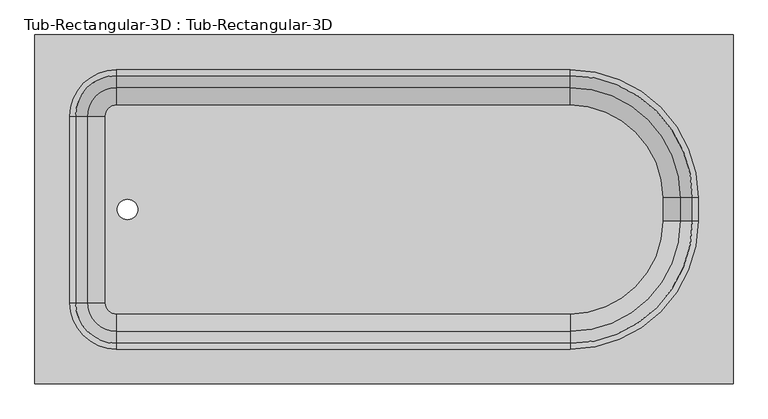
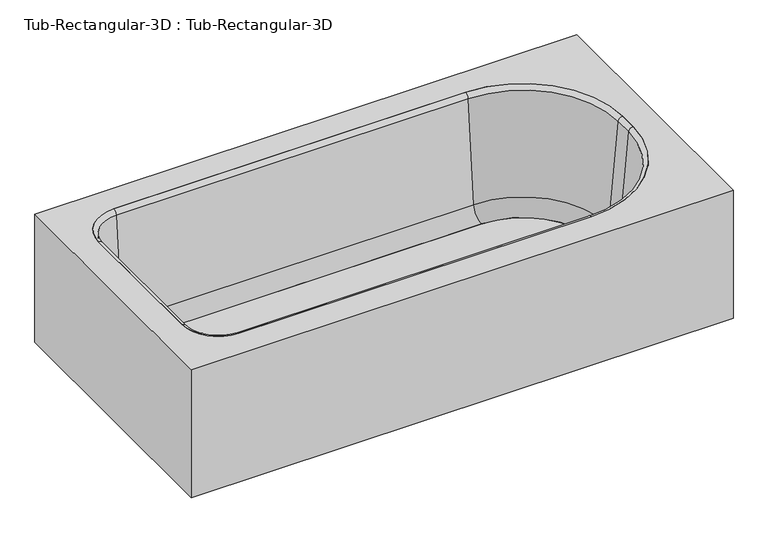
"""IFC4 building model written with IfcOpenShell, lengths in millimetres: flow terminal geometry, Tub-Rectangular-3D : Tub-Rectangular-3D."""

from ifc_helpers import new_model, si_unit, point, frame, frame_2d, origin, place, context, project, spatial, polyline, circle_curve, ellipse_curve, trimmed, segment, composite_curve, outline, extrude, source, transform, mapped, element, save
from ifc_brep_helpers import plane_surface, cylinder_surface, revolved_surface, advanced_brep


def tub_rectangular_3d_tub_rectangular_3d_49ae984a(model_context):
    return source(origin(), model_context, "Body", "SolidModel", [
        advanced_brep(
        [(-995.7544608, 676.275, 70.6929392), (-932.8029687, 739.2264921, 70.6929392), (-932.8029687, 765.3970035, 369.8232535), (-1021.9249722, 676.275, 369.8232535), (-957.7994428, 676.275, 35.913573), (-932.8029687, 701.2714741, 35.913573), (-957.7994428, 676.275, 16.863573), (-932.8029687, 701.2714741, 16.863573), (-1034.4029687, 676.275, 16.863573), (-932.8029687, 777.875, 16.863573), (-1034.4029687, 676.275, 381.0), (-932.8029687, 777.875, 381.0), (-1021.9249722, 269.875, 369.8232535), (-995.7544608, 269.875, 70.6929392), (-957.7994428, 269.875, 35.913573), (-957.7994428, 269.875, 16.863573), (-1034.4029687, 269.875, 16.863573), (-1034.4029687, 269.875, 381.0), (-932.8029687, 206.9235079, 70.6929392), (-932.8029687, 180.7529965, 369.8232535), (-932.8029687, 244.8785259, 35.913573), (-932.8029687, 244.8785259, 16.863573), (-932.8029687, 168.275, 16.863573), (-932.8029687, 168.275, 381.0), (57.7970313, 180.7529965, 369.8232535), (57.7970313, 206.9235079, 70.6929392), (57.7970313, 244.8785259, 35.913573), (57.7970313, 244.8785259, 16.863573), (57.7970313, 168.275, 16.863573), (57.7970313, 168.275, 381.0), (298.5485234, 447.675, 70.6929392), (324.7190348, 447.675, 369.8232535), (260.5935054, 447.675, 35.913573), (260.5935054, 447.675, 16.863573), (337.1970313, 447.675, 16.863573), (337.1970313, 447.675, 381.0), (324.7190348, 498.475, 369.8232535), (298.5485234, 498.475, 70.6929392), (260.5935054, 498.475, 35.913573), (260.5935054, 498.475, 16.863573), (337.1970313, 498.475, 16.863573), (337.1970313, 498.475, 381.0), (57.7970313, 739.2264921, 70.6929392), (57.7970313, 765.3970035, 369.8232535), (57.7970313, 701.2714741, 35.913573), (57.7970313, 701.2714741, 16.863573), (57.7970313, 777.875, 16.863573), (57.7970313, 777.875, 381.0)],
        [
            (0, 1, circle_curve(frame((-932.8029687, 676.275, 70.6929392), z_axis=(0.0, 0.0, -1.0), x_axis=(0.0, 1.0, 0.0)), 62.9514921)),
            (1, 2),
            (2, 3, circle_curve(frame((-932.8029687, 676.275, 369.8232535), z_axis=(0.0, 0.0, 1.0), x_axis=(0.0, 1.0, 0.0)), 89.1220035)),
            (3, 0),
            (4, 5, circle_curve(frame((-932.8029687, 676.275, 35.913573), z_axis=(0.0, 0.0, -1.0), x_axis=(0.0, 1.0, 0.0)), 24.9964741)),
            (5, 1, circle_curve(frame((-932.8029687, 701.2714741, 74.013573), z_axis=(1.0, 0.0, 0.0), x_axis=(0.0, -1.0, 0.0)), 38.1)),
            (0, 4, circle_curve(frame((-957.7994428, 676.275, 74.013573), z_axis=(0.0, -1.0, 0.0), x_axis=(1.0, 0.0, 0.0)), 38.1)),
            (6, 7, circle_curve(frame((-932.8029687, 676.275, 16.863573), z_axis=(0.0, 0.0, -1.0), x_axis=(0.0, 1.0, 0.0)), 24.9964741)),
            (7, 5),
            (4, 6),
            (8, 9, circle_curve(frame((-932.8029687, 676.275, 16.863573), z_axis=(0.0, 0.0, -1.0), x_axis=(0.0, 1.0, 0.0)), 101.6)),
            (9, 7),
            (6, 8),
            (10, 11, circle_curve(frame((-932.8029687, 676.275, 381.0), z_axis=(0.0, 0.0, -1.0), x_axis=(0.0, 1.0, 0.0)), 101.6)),
            (11, 9),
            (8, 10),
            (2, 11, circle_curve(frame((-932.8029687, 777.875, 368.4462547), z_axis=(-1.0, 0.0, 0.0), x_axis=(0.0, -1.0, 0.0)), 12.5537453)),
            (10, 3, circle_curve(frame((-1034.4029687, 676.275, 368.4462547), z_axis=(0.0, 1.0, 0.0), x_axis=(1.0, 0.0, 0.0)), 12.5537453)),
            (3, 12),
            (12, 13),
            (13, 0),
            (13, 14, circle_curve(frame((-957.7994428, 269.875, 74.013573), z_axis=(0.0, -1.0, 0.0), x_axis=(1.0, 0.0, 0.0)), 38.1)),
            (14, 4),
            (14, 15),
            (15, 6),
            (15, 16),
            (16, 8),
            (16, 17),
            (17, 10),
            (17, 12, circle_curve(frame((-1034.4029687, 269.875, 368.4462547), z_axis=(0.0, 1.0, 0.0), x_axis=(1.0, 0.0, 0.0)), 12.5537453)),
            (18, 13, circle_curve(frame((-932.8029687, 269.875, 70.6929392), z_axis=(0.0, 0.0, -1.0), x_axis=(-1.0, 0.0, 0.0)), 62.9514921)),
            (12, 19, circle_curve(frame((-932.8029687, 269.875, 369.8232535), z_axis=(0.0, 0.0, 1.0), x_axis=(-1.0, 0.0, 0.0)), 89.1220035)),
            (19, 18),
            (20, 14, circle_curve(frame((-932.8029687, 269.875, 35.913573), z_axis=(0.0, 0.0, -1.0), x_axis=(-1.0, 0.0, 0.0)), 24.9964741)),
            (18, 20, circle_curve(frame((-932.8029687, 244.8785259, 74.013573), z_axis=(1.0, 0.0, 0.0), x_axis=(0.0, 1.0, 0.0)), 38.1)),
            (21, 15, circle_curve(frame((-932.8029687, 269.875, 16.863573), z_axis=(0.0, 0.0, -1.0), x_axis=(-1.0, 0.0, 0.0)), 24.9964741)),
            (20, 21),
            (22, 16, circle_curve(frame((-932.8029687, 269.875, 16.863573), z_axis=(0.0, 0.0, -1.0), x_axis=(-1.0, 0.0, 0.0)), 101.6)),
            (21, 22),
            (23, 17, circle_curve(frame((-932.8029687, 269.875, 381.0), z_axis=(0.0, 0.0, -1.0), x_axis=(-1.0, 0.0, 0.0)), 101.6)),
            (22, 23),
            (23, 19, circle_curve(frame((-932.8029687, 168.275, 368.4462547), z_axis=(-1.0, 0.0, 0.0), x_axis=(0.0, 1.0, 0.0)), 12.5537453)),
            (19, 24),
            (24, 25),
            (25, 18),
            (25, 26, circle_curve(frame((57.7970313, 244.8785259, 74.013573), z_axis=(1.0, 0.0, 0.0), x_axis=(0.0, 1.0, 0.0)), 38.1)),
            (26, 20),
            (26, 27),
            (27, 21),
            (27, 28),
            (28, 22),
            (28, 29),
            (29, 23),
            (29, 24, circle_curve(frame((57.7970313, 168.275, 368.4462547), z_axis=(-1.0, 0.0, 0.0), x_axis=(0.0, 1.0, 0.0)), 12.5537453)),
            (30, 25, circle_curve(frame((57.7970313, 447.675, 70.6929392), z_axis=(0.0, 0.0, -1.0), x_axis=(0.0, -1.0, 0.0)), 240.7514921)),
            (24, 31, circle_curve(frame((57.7970313, 447.675, 369.8232535), z_axis=(0.0, 0.0, 1.0), x_axis=(0.0, -1.0, 0.0)), 266.9220035)),
            (31, 30),
            (32, 26, circle_curve(frame((57.7970313, 447.675, 35.913573), z_axis=(0.0, 0.0, -1.0), x_axis=(0.0, -1.0, 0.0)), 202.7964741)),
            (30, 32, circle_curve(frame((260.5935054, 447.675, 74.013573), z_axis=(0.0, 1.0, 0.0), x_axis=(-1.0, 0.0, 0.0)), 38.1)),
            (33, 27, circle_curve(frame((57.7970313, 447.675, 16.863573), z_axis=(0.0, 0.0, -1.0), x_axis=(0.0, -1.0, 0.0)), 202.7964741)),
            (32, 33),
            (34, 28, circle_curve(frame((57.7970313, 447.675, 16.863573), z_axis=(0.0, 0.0, -1.0), x_axis=(0.0, -1.0, 0.0)), 279.4)),
            (33, 34),
            (35, 29, circle_curve(frame((57.7970313, 447.675, 381.0), z_axis=(0.0, 0.0, -1.0), x_axis=(0.0, -1.0, 0.0)), 279.4)),
            (34, 35),
            (35, 31, circle_curve(frame((337.1970313, 447.675, 368.4462547), z_axis=(0.0, -1.0, 0.0), x_axis=(-1.0, 0.0, 0.0)), 12.5537453)),
            (31, 36),
            (36, 37),
            (37, 30),
            (37, 38, circle_curve(frame((260.5935054, 498.475, 74.013573), z_axis=(0.0, 1.0, 0.0), x_axis=(-1.0, 0.0, 0.0)), 38.1)),
            (38, 32),
            (38, 39),
            (39, 33),
            (39, 40),
            (40, 34),
            (40, 41),
            (41, 35),
            (41, 36, circle_curve(frame((337.1970313, 498.475, 368.4462547), z_axis=(0.0, -1.0, 0.0), x_axis=(-1.0, 0.0, 0.0)), 12.5537453)),
            (42, 37, circle_curve(frame((57.7970313, 498.475, 70.6929392), z_axis=(0.0, 0.0, -1.0), x_axis=(1.0, 0.0, 0.0)), 240.7514921)),
            (36, 43, circle_curve(frame((57.7970313, 498.475, 369.8232535), z_axis=(0.0, 0.0, 1.0), x_axis=(1.0, 0.0, 0.0)), 266.9220035)),
            (43, 42),
            (44, 38, circle_curve(frame((57.7970313, 498.475, 35.913573), z_axis=(0.0, 0.0, -1.0), x_axis=(1.0, 0.0, 0.0)), 202.7964741)),
            (42, 44, circle_curve(frame((57.7970313, 701.2714741, 74.013573), z_axis=(-1.0, 0.0, 0.0), x_axis=(0.0, -1.0, 0.0)), 38.1)),
            (45, 39, circle_curve(frame((57.7970313, 498.475, 16.863573), z_axis=(0.0, 0.0, -1.0), x_axis=(1.0, 0.0, 0.0)), 202.7964741)),
            (44, 45),
            (46, 40, circle_curve(frame((57.7970313, 498.475, 16.863573), z_axis=(0.0, 0.0, -1.0), x_axis=(1.0, 0.0, 0.0)), 279.4)),
            (45, 46),
            (47, 41, circle_curve(frame((57.7970313, 498.475, 381.0), z_axis=(0.0, 0.0, -1.0), x_axis=(1.0, 0.0, 0.0)), 279.4)),
            (46, 47),
            (47, 43, circle_curve(frame((57.7970313, 777.875, 368.4462547), z_axis=(1.0, 0.0, 0.0), x_axis=(0.0, -1.0, 0.0)), 12.5537453)),
            (43, 2),
            (1, 42),
            (5, 44),
            (7, 45),
            (9, 46),
            (11, 47),
        ],
        [
            revolved_surface(polyline([(-932.8029687, 765.3970035, 369.8232535), (-932.8029687, 739.2264921, 70.6929392)]), (-932.8029687, 676.275, 381.0), (0.0, 0.0, 1.0)),
            revolved_surface(trimmed(ellipse_curve(frame((-932.8029687, 701.2714741, 74.013573), z_axis=(-1.0, 0.0, 0.0), x_axis=(0.0, -1.0, 0.0)), 38.1, 38.1), [point((-932.8029687, 739.2264921, 70.6929392))], [point((-932.8029687, 701.2714741, 35.913573))], True, "CARTESIAN"), (-932.8029687, 676.275, 381.0), (0.0, 0.0, 1.0)),
            revolved_surface(polyline([(-932.8029687, 701.2714741, 35.913572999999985), (-932.8029687, 701.2714741, 16.863572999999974)]), (-932.8029687, 676.275, 381.0), (0.0, 0.0, 1.0)),
            plane_surface(frame((-932.8029687, 676.275, 16.863573), z_axis=(0.0, 0.0, -1.0), x_axis=(0.0, 1.0, 0.0))),
            cylinder_surface(frame((-932.8029687, 676.275, 381.0), z_axis=(0.0, 0.0, 1.0), x_axis=(0.0, 1.0, 0.0)), 101.6),
            revolved_surface(trimmed(ellipse_curve(frame((-932.8029687, 777.875, 368.4462547), z_axis=(1.0, 0.0, 0.0), x_axis=(0.0, -1.0, 0.0)), 12.5537453, 12.5537453), [point((-932.8029687, 777.875, 381.0))], [point((-932.8029687, 765.3970035, 369.8232535))], True, "CARTESIAN"), (-932.8029687, 676.275, 381.0), (0.0, 0.0, 1.0)),
            plane_surface(frame((-1021.9249722, 676.275, 369.8232535), z_axis=(0.9961946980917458, 0.0, 0.08715574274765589), x_axis=(0.0, -1.0, 0.0))),
            revolved_surface(polyline([(-919.6994427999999, 269.875, 74.013573), (-919.6994427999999, 676.275, 74.013573)]), (-957.7994428, 676.275, 74.013573), (0.0, -1.0, 0.0)),
            plane_surface(frame((-957.7994428, 676.275, 35.913573), z_axis=(1.0, 0.0, 0.0), x_axis=(0.0, -1.0, 0.0))),
            plane_surface(frame((-957.7994428, 676.275, 16.863573), z_axis=(0.0, 0.0, -1.0), x_axis=(0.0, -1.0, 0.0))),
            plane_surface(frame((-1034.4029687, 676.275, 16.863573), z_axis=(-1.0, 0.0, 0.0), x_axis=(0.0, -1.0, 0.0))),
            cylinder_surface(frame((-1034.4029687, 676.275, 368.4462547), z_axis=(0.0, 1.0, 0.0), x_axis=(1.0, 0.0, 0.0)), 12.5537453),
            revolved_surface(polyline([(-1021.9249722, 269.875, 369.8232535), (-995.7544608, 269.875, 70.6929392)]), (-932.8029687, 269.875, 381.0), (0.0, 0.0, 1.0)),
            revolved_surface(trimmed(ellipse_curve(frame((-957.7994428, 269.875, 74.013573), z_axis=(0.0, -1.0, 0.0), x_axis=(1.0, 0.0, 0.0)), 38.1, 38.1), [point((-995.7544608, 269.875, 70.6929392))], [point((-957.7994428, 269.875, 35.913573))], True, "CARTESIAN"), (-932.8029687, 269.875, 381.0), (0.0, 0.0, 1.0)),
            revolved_surface(polyline([(-957.7994428, 269.875, 35.913572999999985), (-957.7994428, 269.875, 16.863572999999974)]), (-932.8029687, 269.875, 381.0), (0.0, 0.0, 1.0)),
            plane_surface(frame((-932.8029687, 269.875, 16.863573), z_axis=(0.0, 0.0, -1.0), x_axis=(-1.0, 0.0, 0.0))),
            cylinder_surface(frame((-932.8029687, 269.875, 381.0), z_axis=(0.0, 0.0, 1.0), x_axis=(-1.0, 0.0, 0.0)), 101.6),
            revolved_surface(trimmed(ellipse_curve(frame((-1034.4029687, 269.875, 368.4462547), z_axis=(0.0, 1.0, 0.0), x_axis=(1.0, 0.0, 0.0)), 12.5537453, 12.5537453), [point((-1034.4029687, 269.875, 381.0))], [point((-1021.9249722, 269.875, 369.8232535))], True, "CARTESIAN"), (-932.8029687, 269.875, 381.0), (0.0, 0.0, 1.0)),
            plane_surface(frame((-932.8029687, 180.7529965, 369.8232535), z_axis=(0.0, 0.9961946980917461, 0.08715574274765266), x_axis=(1.0, 0.0, 0.0))),
            revolved_surface(polyline([(57.79703129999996, 282.9785259, 74.013573), (-932.8029687, 282.9785259, 74.013573)]), (-932.8029687, 244.8785259, 74.013573), (1.0, 0.0, 0.0)),
            plane_surface(frame((-932.8029687, 244.8785259, 35.913573), z_axis=(0.0, 1.0, 0.0), x_axis=(1.0, 0.0, 0.0))),
            plane_surface(frame((-932.8029687, 244.8785259, 16.863573), z_axis=(0.0, 0.0, -1.0), x_axis=(1.0, 0.0, 0.0))),
            plane_surface(frame((-932.8029687, 168.275, 16.863573), z_axis=(0.0, -1.0, 0.0), x_axis=(1.0, 0.0, 0.0))),
            cylinder_surface(frame((-932.8029687, 168.275, 368.4462547), z_axis=(-1.0, 0.0, 0.0), x_axis=(0.0, 1.0, 0.0)), 12.5537453),
            revolved_surface(polyline([(57.7970313, 180.7529965, 369.8232535), (57.7970313, 206.9235079, 70.6929392)]), (57.7970313, 447.675, 381.0), (0.0, 0.0, 1.0)),
            revolved_surface(trimmed(ellipse_curve(frame((57.7970313, 244.8785259, 74.013573), z_axis=(1.0, 0.0, 0.0), x_axis=(0.0, 1.0, 0.0)), 38.1, 38.1), [point((57.7970313, 206.9235079, 70.6929392))], [point((57.7970313, 244.8785259, 35.913573))], True, "CARTESIAN"), (57.7970313, 447.675, 381.0), (0.0, 0.0, 1.0)),
            revolved_surface(polyline([(57.7970313, 244.8785259, 35.913572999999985), (57.7970313, 244.8785259, 16.863572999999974)]), (57.7970313, 447.675, 381.0), (0.0, 0.0, 1.0)),
            plane_surface(frame((57.7970313, 447.675, 16.863573), z_axis=(0.0, 0.0, -1.0), x_axis=(0.0, -1.0, 0.0))),
            cylinder_surface(frame((57.7970313, 447.675, 381.0), z_axis=(0.0, 0.0, 1.0), x_axis=(0.0, -1.0, 0.0)), 279.4),
            revolved_surface(trimmed(ellipse_curve(frame((57.7970313, 168.275, 368.4462547), z_axis=(-1.0, 0.0, 0.0), x_axis=(0.0, 1.0, 0.0)), 12.5537453, 12.5537453), [point((57.7970313, 168.275, 381.0))], [point((57.7970313, 180.7529965, 369.8232535))], True, "CARTESIAN"), (57.7970313, 447.675, 381.0), (0.0, 0.0, 1.0)),
            plane_surface(frame((324.7190348, 447.675, 369.8232535), z_axis=(-0.9961946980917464, 0.0, 0.08715574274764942), x_axis=(0.0, 1.0, 0.0))),
            revolved_surface(polyline([(222.49350540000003, 498.475, 74.013573), (222.49350540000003, 447.675, 74.013573)]), (260.5935054, 447.675, 74.013573), (0.0, 1.0, 0.0)),
            plane_surface(frame((260.5935054, 447.675, 35.913573), z_axis=(-1.0, 0.0, 0.0), x_axis=(0.0, 1.0, 0.0))),
            plane_surface(frame((260.5935054, 447.675, 16.863573), z_axis=(0.0, 0.0, -1.0), x_axis=(0.0, 1.0, 0.0))),
            plane_surface(frame((337.1970313, 447.675, 16.863573), z_axis=(1.0, 0.0, 0.0), x_axis=(0.0, 1.0, 0.0))),
            cylinder_surface(frame((337.1970313, 447.675, 368.4462547), z_axis=(0.0, -1.0, 0.0), x_axis=(-1.0, 0.0, 0.0)), 12.5537453),
            revolved_surface(polyline([(324.7190348, 498.475, 369.8232535), (298.5485234, 498.475, 70.6929392)]), (57.7970313, 498.475, 381.0), (0.0, 0.0, 1.0)),
            revolved_surface(trimmed(ellipse_curve(frame((260.5935054, 498.475, 74.013573), z_axis=(0.0, 1.0, 0.0), x_axis=(-1.0, 0.0, 0.0)), 38.1, 38.1), [point((298.5485234, 498.475, 70.6929392))], [point((260.5935054, 498.475, 35.913573))], True, "CARTESIAN"), (57.7970313, 498.475, 381.0), (0.0, 0.0, 1.0)),
            revolved_surface(polyline([(260.5935054, 498.475, 35.913572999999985), (260.5935054, 498.475, 16.863572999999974)]), (57.7970313, 498.475, 381.0), (0.0, 0.0, 1.0)),
            plane_surface(frame((57.7970313, 498.475, 16.863573), z_axis=(0.0, 0.0, -1.0), x_axis=(1.0, 0.0, 0.0))),
            cylinder_surface(frame((57.7970313, 498.475, 381.0), z_axis=(0.0, 0.0, 1.0), x_axis=(1.0, 0.0, 0.0)), 279.4),
            revolved_surface(trimmed(ellipse_curve(frame((337.1970313, 498.475, 368.4462547), z_axis=(0.0, -1.0, 0.0), x_axis=(-1.0, 0.0, 0.0)), 12.5537453, 12.5537453), [point((337.1970313, 498.475, 381.0))], [point((324.7190348, 498.475, 369.8232535))], True, "CARTESIAN"), (57.7970313, 498.475, 381.0), (0.0, 0.0, 1.0)),
            plane_surface(frame((57.7970313, 765.3970035, 369.8232535), z_axis=(0.0, -0.9961946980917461, 0.08715574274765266), x_axis=(-1.0, 0.0, 0.0))),
            revolved_surface(polyline([(-932.8029687, 663.1714741, 74.013573), (57.7970313, 663.1714741, 74.013573)]), (57.7970313, 701.2714741, 74.013573), (-1.0, 0.0, 0.0)),
            plane_surface(frame((57.7970313, 701.2714741, 35.913573), z_axis=(0.0, -1.0, 0.0), x_axis=(-1.0, 0.0, 0.0))),
            plane_surface(frame((57.7970313, 701.2714741, 16.863573), z_axis=(0.0, 0.0, -1.0), x_axis=(-1.0, 0.0, 0.0))),
            plane_surface(frame((57.7970313, 777.875, 16.863573), z_axis=(0.0, 1.0, 0.0), x_axis=(-1.0, 0.0, 0.0))),
            cylinder_surface(frame((57.7970313, 777.875, 368.4462547), z_axis=(1.0, 0.0, 0.0), x_axis=(0.0, -1.0, 0.0)), 12.5537453),
        ],
        [
            (0, [[1, 2, 3, 4]]),
            (1, [[5, 6, -1, 7]]),
            (2, [[8, 9, -5, 10]]),
            (3, [[11, 12, -8, 13]]),
            (4, [[14, 15, -11, 16]]),
            (5, [[-3, 17, -14, 18]]),
            (6, [[-4, 19, 20, 21]]),
            (7, [[-7, -21, 22, 23]]),
            (8, [[-10, -23, 24, 25]]),
            (9, [[-13, -25, 26, 27]]),
            (10, [[-16, -27, 28, 29]]),
            (11, [[-18, -29, 30, -19]]),
            (12, [[31, -20, 32, 33]]),
            (13, [[34, -22, -31, 35]]),
            (14, [[36, -24, -34, 37]]),
            (15, [[38, -26, -36, 39]]),
            (16, [[40, -28, -38, 41]]),
            (17, [[-32, -30, -40, 42]]),
            (18, [[-33, 43, 44, 45]]),
            (19, [[-35, -45, 46, 47]]),
            (20, [[-37, -47, 48, 49]]),
            (21, [[-39, -49, 50, 51]]),
            (22, [[-41, -51, 52, 53]]),
            (23, [[-42, -53, 54, -43]]),
            (24, [[55, -44, 56, 57]]),
            (25, [[58, -46, -55, 59]]),
            (26, [[60, -48, -58, 61]]),
            (27, [[62, -50, -60, 63]]),
            (28, [[64, -52, -62, 65]]),
            (29, [[-56, -54, -64, 66]]),
            (30, [[-57, 67, 68, 69]]),
            (31, [[-59, -69, 70, 71]]),
            (32, [[-61, -71, 72, 73]]),
            (33, [[-63, -73, 74, 75]]),
            (34, [[-65, -75, 76, 77]]),
            (35, [[-66, -77, 78, -67]]),
            (36, [[79, -68, 80, 81]]),
            (37, [[82, -70, -79, 83]]),
            (38, [[84, -72, -82, 85]]),
            (39, [[86, -74, -84, 87]]),
            (40, [[88, -76, -86, 89]]),
            (41, [[-80, -78, -88, 90]]),
            (42, [[-81, 91, -2, 92]]),
            (43, [[-83, -92, -6, 93]]),
            (44, [[-85, -93, -9, 94]]),
            (45, [[-87, -94, -12, 95]]),
            (46, [[-89, -95, -15, 96]]),
            (47, [[-90, -96, -17, -91]]),
        ],
    ),
        extrude(outline(composite_curve([segment(trimmed(circle_curve(frame_2d((57.7970313, 498.475)), 202.7964741), [point((57.7970313, 701.2714741))], [point((260.5935054, 498.475))], False, "CARTESIAN"), True, "CONTINUOUS"), segment(polyline([(260.5935054, 498.475), (260.5935054, 447.675)]), True, "CONTINUOUS"), segment(trimmed(circle_curve(frame_2d((57.7970313, 447.675)), 202.7964741), [point((260.5935054, 447.675))], [point((57.7970313, 244.8785259))], False, "CARTESIAN"), True, "CONTINUOUS"), segment(polyline([(57.7970313, 244.8785259), (-932.8029687, 244.8785259)]), True, "CONTINUOUS"), segment(trimmed(circle_curve(frame_2d((-932.8029687, 269.875)), 24.9964741), [point((-932.8029687, 244.8785259))], [point((-957.7994428, 269.875))], False, "CARTESIAN"), True, "CONTINUOUS"), segment(polyline([(-957.7994428, 269.875), (-957.7994428, 676.275)]), True, "CONTINUOUS"), segment(trimmed(circle_curve(frame_2d((-932.8029687, 676.275)), 24.9964741), [point((-957.7994428, 676.275))], [point((-932.8029687, 701.2714741))], False, "CARTESIAN"), True, "CONTINUOUS"), segment(polyline([(-932.8029687, 701.2714741), (57.7970313, 701.2714741)]), True, "CONTINUOUS")], self_intersect=False), holes=[composite_curve([segment(trimmed(circle_curve(frame_2d((-908.510206, 473.075)), 22.225), [point((-908.510206, 495.3))], [point((-908.510206, 450.85))], True, "CARTESIAN"), True, "CONTINUOUS"), segment(trimmed(circle_curve(frame_2d((-908.510206, 473.075)), 22.225), [point((-908.510206, 450.85))], [point((-908.510206, 495.3))], True, "CARTESIAN"), True, "CONTINUOUS")], self_intersect=False)]), frame((0.0, 0.0, 16.863573), z_axis=(0.0, 0.0, 1.0), x_axis=(1.0, 0.0, 0.0)), (0.0, 0.0, 1.0), 19.05),
        advanced_brep(
        [(413.3970313, 854.075, 381.0), (-1110.6029687, 854.075, 381.0), (-1110.6029687, 92.075, 381.0), (413.3970313, 92.075, 381.0), (-932.8029687, 777.875, 381.0), (57.7970313, 777.875, 381.0), (337.1970313, 498.475, 381.0), (337.1970313, 447.675, 381.0), (57.7970313, 168.275, 381.0), (-932.8029687, 168.275, 381.0), (-1034.4029687, 269.875, 381.0), (-1034.4029687, 676.275, 381.0), (394.3470313, 835.025, 361.95), (394.3470313, 111.125, 361.95), (-1091.5529687, 111.125, 361.95), (-1091.5529687, 835.025, 361.95), (-932.8029687, 777.875, 361.95), (-1034.4029687, 676.275, 361.95), (-1034.4029687, 269.875, 361.95), (-932.8029687, 168.275, 361.95), (57.7970313, 168.275, 361.95), (337.1970313, 447.675, 361.95), (337.1970313, 498.475, 361.95), (57.7970313, 777.875, 361.95), (413.3970313, 854.075, 0.0), (-1110.6029687, 854.075, 0.0), (-1110.6029687, 92.075, 0.0), (413.3970313, 92.075, 0.0), (394.3470313, 835.025, 0.0), (-1091.5529687, 835.025, 0.0), (-1091.5529687, 111.125, 0.0), (394.3470313, 111.125, 0.0)],
        [
            (0, 1),
            (1, 2),
            (2, 3),
            (3, 0),
            (4, 5),
            (5, 6, circle_curve(frame((57.7970313, 498.475, 381.0), z_axis=(0.0, 0.0, -1.0), x_axis=(0.0, 1.0, 0.0)), 279.4)),
            (6, 7),
            (7, 8, circle_curve(frame((57.7970313, 447.675, 381.0), z_axis=(0.0, 0.0, -1.0), x_axis=(0.0, 1.0, 0.0)), 279.4)),
            (8, 9),
            (9, 10, circle_curve(frame((-932.8029687, 269.875, 381.0), z_axis=(0.0, 0.0, -1.0), x_axis=(0.0, 1.0, 0.0)), 101.6)),
            (10, 11),
            (11, 4, circle_curve(frame((-932.8029687, 676.275, 381.0), z_axis=(0.0, 0.0, -1.0), x_axis=(0.0, 1.0, 0.0)), 101.6)),
            (12, 13),
            (13, 14),
            (14, 15),
            (15, 12),
            (16, 17, circle_curve(frame((-932.8029687, 676.275, 361.95), z_axis=(0.0, 0.0, 1.0), x_axis=(0.0, 1.0, 0.0)), 101.6)),
            (17, 18),
            (18, 19, circle_curve(frame((-932.8029687, 269.875, 361.95), z_axis=(0.0, 0.0, 1.0), x_axis=(0.0, 1.0, 0.0)), 101.6)),
            (19, 20),
            (20, 21, circle_curve(frame((57.7970313, 447.675, 361.95), z_axis=(0.0, 0.0, 1.0), x_axis=(0.0, 1.0, 0.0)), 279.4)),
            (21, 22),
            (22, 23, circle_curve(frame((57.7970313, 498.475, 361.95), z_axis=(0.0, 0.0, 1.0), x_axis=(0.0, 1.0, 0.0)), 279.4)),
            (23, 16),
            (0, 24),
            (24, 25),
            (25, 1),
            (25, 26),
            (26, 2),
            (26, 27),
            (27, 3),
            (27, 24),
            (4, 16),
            (23, 5),
            (22, 6),
            (21, 7),
            (20, 8),
            (19, 9),
            (18, 10),
            (17, 11),
            (28, 29),
            (29, 30),
            (30, 31),
            (31, 28),
            (31, 13),
            (12, 28),
            (30, 14),
            (29, 15),
        ],
        [
            plane_surface(frame((-1110.6029687, 854.075, 381.0), z_axis=(0.0, 0.0, 1.0), x_axis=(-1.0, 0.0, 0.0))),
            plane_surface(frame((-1110.6029687, 854.075, 361.95), z_axis=(0.0, 0.0, -1.0), x_axis=(1.0, 0.0, 0.0))),
            plane_surface(frame((413.3970313, 854.075, 381.0), z_axis=(0.0, 1.0, 0.0), x_axis=(0.0, 0.0, -1.0))),
            plane_surface(frame((-1110.6029687, 854.075, 381.0), z_axis=(-1.0, 0.0, 0.0), x_axis=(0.0, 0.0, -1.0))),
            plane_surface(frame((-1110.6029687, 92.075, 381.0), z_axis=(0.0, -1.0, 0.0), x_axis=(0.0, 0.0, -1.0))),
            plane_surface(frame((413.3970313, 92.075, 381.0), z_axis=(1.0, 0.0, 0.0), x_axis=(0.0, 0.0, -1.0))),
            plane_surface(frame((-932.8029687, 777.875, 381.0), z_axis=(0.0, -1.0, 0.0), x_axis=(0.0, 0.0, -1.0))),
            revolved_surface(polyline([(57.7970313, 777.875, 361.95), (57.7970313, 777.875, 381.0)]), (57.7970313, 498.475, 381.0), (0.0, 0.0, -1.0)),
            plane_surface(frame((337.1970313, 498.475, 381.0), z_axis=(-1.0, 0.0, 0.0), x_axis=(0.0, 0.0, -1.0))),
            revolved_surface(polyline([(57.7970313, 727.075, 361.95), (57.7970313, 727.075, 381.0)]), (57.7970313, 447.675, 381.0), (0.0, 0.0, -1.0)),
            plane_surface(frame((57.7970313, 168.275, 381.0), z_axis=(0.0, 1.0, 0.0), x_axis=(0.0, 0.0, -1.0))),
            revolved_surface(polyline([(-932.8029687, 371.475, 361.95), (-932.8029687, 371.475, 381.0)]), (-932.8029687, 269.875, 381.0), (0.0, 0.0, -1.0)),
            plane_surface(frame((-1034.4029687, 269.875, 381.0), z_axis=(1.0, 0.0, 0.0), x_axis=(0.0, 0.0, -1.0))),
            revolved_surface(polyline([(-932.8029687, 777.875, 361.95), (-932.8029687, 777.875, 381.0)]), (-932.8029687, 676.275, 381.0), (0.0, 0.0, -1.0)),
            plane_surface(frame((-1110.6029687, 854.075, 0.0), z_axis=(0.0, 0.0, -1.0), x_axis=(1.0, 0.0, 0.0))),
            plane_surface(frame((394.3470313, 835.025, 361.95), z_axis=(-1.0, 0.0, 0.0), x_axis=(0.0, 0.0, -1.0))),
            plane_surface(frame((394.3470313, 111.125, 361.95), z_axis=(0.0, 1.0, 0.0), x_axis=(0.0, 0.0, -1.0))),
            plane_surface(frame((-1091.5529687, 111.125, 361.95), z_axis=(1.0, 0.0, 0.0), x_axis=(0.0, 0.0, -1.0))),
            plane_surface(frame((-1091.5529687, 835.025, 361.95), z_axis=(0.0, -1.0, 0.0), x_axis=(0.0, 0.0, -1.0))),
        ],
        [
            (0, [[1, 2, 3, 4], [5, 6, 7, 8, 9, 10, 11, 12]]),
            (1, [[13, 14, 15, 16], [17, 18, 19, 20, 21, 22, 23, 24]]),
            (2, [[-1, 25, 26, 27]]),
            (3, [[-2, -27, 28, 29]]),
            (4, [[-3, -29, 30, 31]]),
            (5, [[-25, -4, -31, 32]]),
            (6, [[-5, 33, -24, 34]]),
            (7, [[-6, -34, -23, 35]]),
            (8, [[-7, -35, -22, 36]]),
            (9, [[-8, -36, -21, 37]]),
            (10, [[-9, -37, -20, 38]]),
            (11, [[-10, -38, -19, 39]]),
            (12, [[-11, -39, -18, 40]]),
            (13, [[-12, -40, -17, -33]]),
            (14, [[-32, -30, -28, -26], [41, 42, 43, 44]]),
            (15, [[-44, 45, -13, 46]]),
            (16, [[-43, 47, -14, -45]]),
            (17, [[-42, 48, -15, -47]]),
            (18, [[-41, -46, -16, -48]]),
        ],
    ),
    ])


if __name__ == "__main__":
    model = new_model("IFC4")
    model_context = context("Model", 3, world=origin())
    ifc_project = project(units=[si_unit("LENGTHUNIT", "METRE", prefix="MILLI")], contexts=[model_context])
    site = spatial("IfcSite", under=ifc_project)
    building = spatial("IfcBuilding", under=site)
    placement = place(None, origin())
    tub_rectangular_3d_tub_rectangular_3d_shape = tub_rectangular_3d_tub_rectangular_3d_49ae984a(model_context)
    element("IfcFlowTerminal", 1, ObjectType="Tub-Rectangular-3D : Tub-Rectangular-3D", at=placement, inside=building, context=model_context, shape_type="MappedRepresentation", body=[
        mapped(tub_rectangular_3d_tub_rectangular_3d_shape, transform((0.0, 0.0, 0.0), x_axis=(1.0, 0.0, 0.0), y_axis=(0.0, 1.0, 0.0), z_axis=(0.0, 0.0, 1.0))),
    ])
    save(model, "model.ifc")
